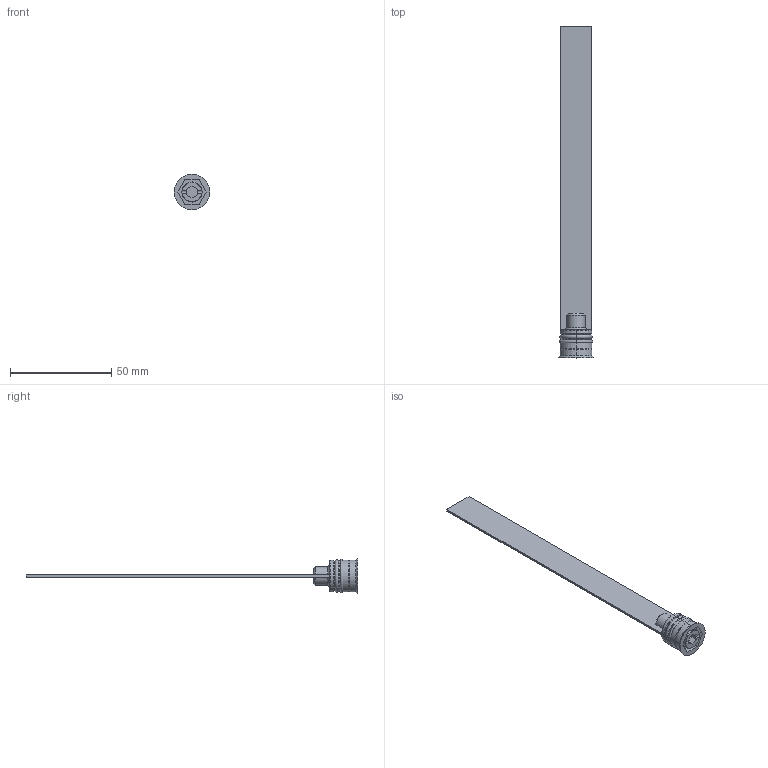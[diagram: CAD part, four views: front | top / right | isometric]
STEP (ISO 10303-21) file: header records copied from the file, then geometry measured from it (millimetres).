
FILE_DESCRIPTION (( 'STEP AP203' ), '1' );
FILE_NAME ('RL-16Fx150-15,5.STEP', '2015-12-02T14:35:51', ( 'Balzi' ), ( '' ), 'SwSTEP 2.0', 'SolidWorks 2015', '' );
FILE_SCHEMA (( 'CONFIG_CONTROL_DESIGN' ));
Length unit declared in the file: millimetre
Products named in the file (1): RL-16Fx150-15,5
Bounding box: 17.5 x 164 x 17.5 mm (x, y, z)
Volume: 5253.3 mm3; surface area: 6727 mm2
Topology: 1 solids, 1 shells, 75 faces, 177 edges, 109 vertices
Faces by surface type: plane 31, cone 19, cylinder 17, torus 8
Entity records: 2245 total; most frequent: CARTESIAN_POINT 412, DIRECTION 386, ORIENTED_EDGE 354, EDGE_CURVE 177, AXIS2_PLACEMENT_3D 147, VERTEX_POINT 109, VECTOR 92, LINE 92
